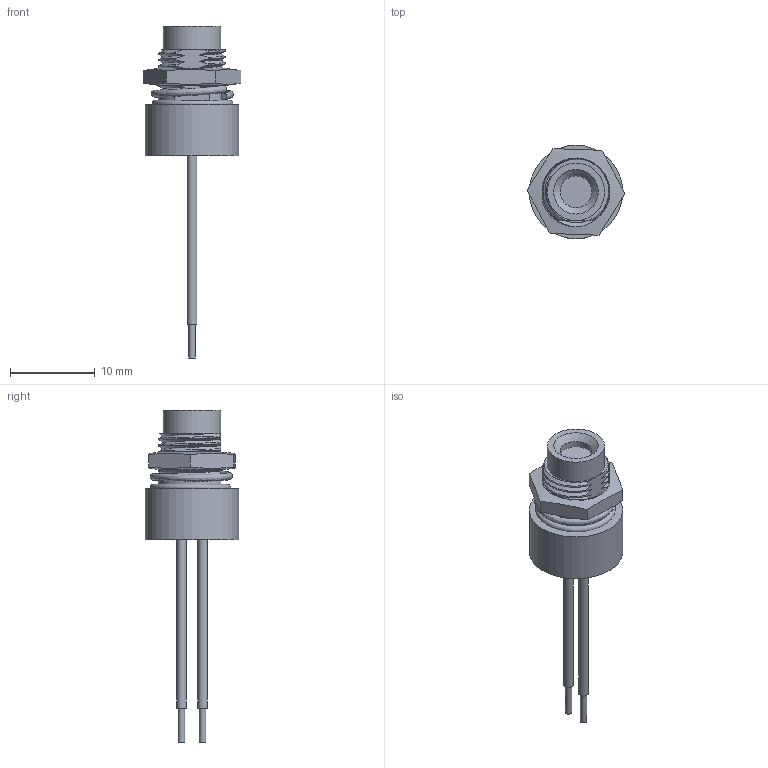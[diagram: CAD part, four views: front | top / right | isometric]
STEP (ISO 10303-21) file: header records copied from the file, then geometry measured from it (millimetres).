
FILE_DESCRIPTION( ( 'Unknown' ), '1' );
FILE_NAME( 'D:/My Documents/Q series 3D files/QRM85BXXR.stp', 'Unknown', ( 'Unknown' ), ( 'Unknown' ), 'PSStep 15.0.49', 'Unknown', ' ' );
FILE_SCHEMA( ( 'AUTOMOTIVE_DESIGN { 1 0 10303 214 1 1 1 1 }' ) );
Length unit declared in the file: millimetre
Products named in the file (9): Assem1; 21-0026; 5mmLED-flat-short; wire-black-short; wire-red short; rear mount potting; 13-0036; 8mm o'ring 0,75diax8; 34-0128iss2
Assembly tree (8 placements, depth 2):
  Assem1
    21-0026
    5mmLED-flat-short
    wire-black-short
    wire-red short
    rear mount potting
    13-0036
    8mm o'ring 0,75diax8
    34-0128iss2
Bounding box: 11.54 x 11 x 39.1 mm (x, y, z)
Volume: 1072.2 mm3; surface area: 1951.5 mm2
Topology: 8 solids, 8 shells, 105 faces, 231 edges, 152 vertices
Faces by surface type: plane 47, bspline 29, cylinder 27, torus 1, cone 1
Full cylindrical faces by diameter (mm): 0.75 x4, 1 x2, 1.15 x2, 3.75 x1, 5 x1, 5.1 x1, 6 x1, 6.75 x1, 8 x1, 8.8 x1, 9 x2, 11 x1
Entity records: 19981 total; most frequent: CARTESIAN_POINT 17081, ORIENTED_EDGE 398, DIRECTION 308, EDGE_CURVE 199, VERTEX_POINT 144, EDGE_LOOP 142, AXIS2_PLACEMENT_3D 131, FACE_OUTER_BOUND 125
